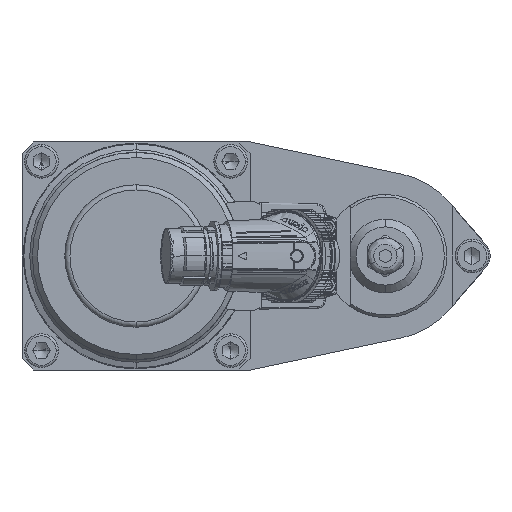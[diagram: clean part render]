
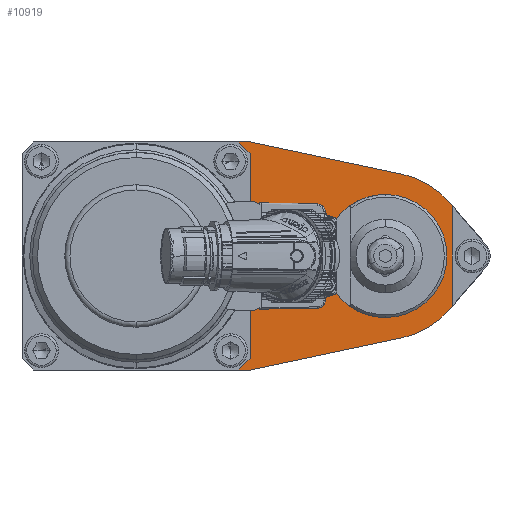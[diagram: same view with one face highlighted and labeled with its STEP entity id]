
A CAD part, left-side view. The second image highlights one B-rep face of the part: STEP entity #10919.
In plain terms, the highlighted planar face has unit normal (-1, 0, 0).
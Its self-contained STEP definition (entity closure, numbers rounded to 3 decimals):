
#102 = CARTESIAN_POINT ( 'NONE',  ( -132., 19., 14.25 ) ) ;
#512 = VERTEX_POINT ( 'NONE', #80574 ) ;
#2538 = VECTOR ( 'NONE', #33791, 1000. ) ;
#4799 = CARTESIAN_POINT ( 'NONE',  ( -132., 52.213, 44. ) ) ;
#4882 = CARTESIAN_POINT ( 'NONE',  ( -132., 19., -14.25 ) ) ;
#5156 = EDGE_CURVE ( 'NONE', #15463, #83904, #9963, .T. ) ;
#6144 = EDGE_CURVE ( 'NONE', #8678, #9292, #30589, .T. ) ;
#6688 = CARTESIAN_POINT ( 'NONE',  ( -132., 52.13, -44. ) ) ;
#6965 = VECTOR ( 'NONE', #64194, 1000. ) ;
#7342 = ORIENTED_EDGE ( 'NONE', *, *, #80531, .F. ) ;
#7470 = EDGE_CURVE ( 'NONE', #18658, #24157, #20547, .T. ) ;
#7785 = CARTESIAN_POINT ( 'NONE',  ( -132., 56.713, 44. ) ) ;
#8153 = CARTESIAN_POINT ( 'NONE',  ( -132., 56.713, -44. ) ) ;
#8678 = VERTEX_POINT ( 'NONE', #60181 ) ;
#9292 = VERTEX_POINT ( 'NONE', #32720 ) ;
#9963 = LINE ( 'NONE', #4799, #30800 ) ;
#10919 = ADVANCED_FACE ( 'NONE', ( #36610, #107213 ), #30795, .T. ) ;
#11905 = CIRCLE ( 'NONE', #84918, 23.75 ) ;
#12911 = CARTESIAN_POINT ( 'NONE',  ( -132., 49.911, 0. ) ) ;
#14364 = CARTESIAN_POINT ( 'NONE',  ( -132., 52.13, 44. ) ) ;
#15463 = VERTEX_POINT ( 'NONE', #39681 ) ;
#15836 = ORIENTED_EDGE ( 'NONE', *, *, #38913, .T. ) ;
#16692 = DIRECTION ( 'NONE',  ( 0., -0.707, -0.707 ) ) ;
#17708 = CARTESIAN_POINT ( 'NONE',  ( -132., 0., 0. ) ) ;
#18658 = VERTEX_POINT ( 'NONE', #107108 ) ;
#19110 = EDGE_CURVE ( 'NONE', #9292, #75299, #42077, .T. ) ;
#19450 = DIRECTION ( 'NONE',  ( -1., 0., 0. ) ) ;
#19622 = LINE ( 'NONE', #6688, #46015 ) ;
#20547 = LINE ( 'NONE', #104171, #2538 ) ;
#20758 = ORIENTED_EDGE ( 'NONE', *, *, #6144, .F. ) ;
#22012 = CARTESIAN_POINT ( 'NONE',  ( -132., 140.213, 44. ) ) ;
#23609 = ORIENTED_EDGE ( 'NONE', *, *, #103574, .F. ) ;
#23996 = DIRECTION ( 'NONE',  ( 0., 0.707, -0.707 ) ) ;
#24138 = DIRECTION ( 'NONE',  ( 0., 0.978, -0.208 ) ) ;
#24157 = VERTEX_POINT ( 'NONE', #8153 ) ;
#25485 = ORIENTED_EDGE ( 'NONE', *, *, #47294, .F. ) ;
#25959 = DIRECTION ( 'NONE',  ( 1., 0., 0. ) ) ;
#26595 = DIRECTION ( 'NONE',  ( 0., 0., 1. ) ) ;
#26890 = VERTEX_POINT ( 'NONE', #60128 ) ;
#26965 = ORIENTED_EDGE ( 'NONE', *, *, #53755, .F. ) ;
#26996 = DIRECTION ( 'NONE',  ( 0., 0.656, -0.755 ) ) ;
#27059 = CARTESIAN_POINT ( 'NONE',  ( -132., 0., 23.75 ) ) ;
#29320 = ORIENTED_EDGE ( 'NONE', *, *, #86392, .F. ) ;
#29329 = VERTEX_POINT ( 'NONE', #4882 ) ;
#30468 = VECTOR ( 'NONE', #60332, 1000. ) ;
#30589 = LINE ( 'NONE', #63496, #6965 ) ;
#30615 = EDGE_CURVE ( 'NONE', #29329, #512, #11905, .T. ) ;
#30795 = PLANE ( 'NONE',  #75113 ) ;
#30800 = VECTOR ( 'NONE', #66737, 1000. ) ;
#32186 = VERTEX_POINT ( 'NONE', #49587 ) ;
#32720 = CARTESIAN_POINT ( 'NONE',  ( -132., -25.89, 19.298 ) ) ;
#33229 = LINE ( 'NONE', #69274, #30468 ) ;
#33791 = DIRECTION ( 'NONE',  ( 0., 1., 0. ) ) ;
#36610 = FACE_OUTER_BOUND ( 'NONE', #59064, .T. ) ;
#37312 = ORIENTED_EDGE ( 'NONE', *, *, #61066, .F. ) ;
#37884 = ORIENTED_EDGE ( 'NONE', *, *, #67656, .F. ) ;
#38913 = EDGE_CURVE ( 'NONE', #26890, #15463, #55181, .T. ) ;
#39108 = LINE ( 'NONE', #22012, #41869 ) ;
#39457 = VERTEX_POINT ( 'NONE', #27059 ) ;
#39681 = CARTESIAN_POINT ( 'NONE',  ( -132., 52.213, 39.5 ) ) ;
#39724 = DIRECTION ( 'NONE',  ( 0., 0., 1. ) ) ;
#41869 = VECTOR ( 'NONE', #92827, 1000. ) ;
#42077 = LINE ( 'NONE', #113607, #65599 ) ;
#44578 = ORIENTED_EDGE ( 'NONE', *, *, #7470, .F. ) ;
#44926 = ORIENTED_EDGE ( 'NONE', *, *, #30615, .F. ) ;
#46015 = VECTOR ( 'NONE', #24138, 1000. ) ;
#47294 = EDGE_CURVE ( 'NONE', #75299, #103251, #71924, .T. ) ;
#48353 = VECTOR ( 'NONE', #26996, 1000. ) ;
#48797 = DIRECTION ( 'NONE',  ( -1., 0., 0. ) ) ;
#49180 = ORIENTED_EDGE ( 'NONE', *, *, #19110, .F. ) ;
#49428 = CIRCLE ( 'NONE', #70275, 23.75 ) ;
#49587 = CARTESIAN_POINT ( 'NONE',  ( -132., -6.695, 31.496 ) ) ;
#51102 = DIRECTION ( 'NONE',  ( 1., 0., 0. ) ) ;
#51247 = EDGE_LOOP ( 'NONE', ( #7342, #37884, #29320, #44926 ) ) ;
#52431 = VECTOR ( 'NONE', #23996, 1000. ) ;
#52684 = EDGE_CURVE ( 'NONE', #103251, #58793, #104360, .T. ) ;
#53755 = EDGE_CURVE ( 'NONE', #58793, #18658, #19622, .T. ) ;
#55181 = LINE ( 'NONE', #7785, #99480 ) ;
#57792 = AXIS2_PLACEMENT_3D ( 'NONE', #104080, #51102, #113026 ) ;
#58793 = VERTEX_POINT ( 'NONE', #72235 ) ;
#59064 = EDGE_LOOP ( 'NONE', ( #15836, #77916, #70024, #44578, #26965, #86733, #25485, #49180, #20758, #23609, #71479, #37312 ) ) ;
#60128 = CARTESIAN_POINT ( 'NONE',  ( -132., 56.713, 44. ) ) ;
#60181 = CARTESIAN_POINT ( 'NONE',  ( -132., -24.302, 21.125 ) ) ;
#60332 = DIRECTION ( 'NONE',  ( 0., -0.978, -0.208 ) ) ;
#61066 = EDGE_CURVE ( 'NONE', #26890, #88711, #39108, .T. ) ;
#62549 = CARTESIAN_POINT ( 'NONE',  ( -132., 52.213, -39.5 ) ) ;
#62727 = CIRCLE ( 'NONE', #57792, 32.2 ) ;
#63496 = CARTESIAN_POINT ( 'NONE',  ( -132., -24.302, 21.125 ) ) ;
#63926 = VERTEX_POINT ( 'NONE', #102 ) ;
#64194 = DIRECTION ( 'NONE',  ( 0., -0.656, -0.755 ) ) ;
#65599 = VECTOR ( 'NONE', #104677, 1000. ) ;
#66143 = VECTOR ( 'NONE', #112863, 1000. ) ;
#66737 = DIRECTION ( 'NONE',  ( 0., 0., -1. ) ) ;
#67656 = EDGE_CURVE ( 'NONE', #39457, #63926, #105741, .T. ) ;
#69274 = CARTESIAN_POINT ( 'NONE',  ( -132., 52.13, 44. ) ) ;
#70024 = ORIENTED_EDGE ( 'NONE', *, *, #106515, .T. ) ;
#70275 = AXIS2_PLACEMENT_3D ( 'NONE', #72515, #19450, #81396 ) ;
#71479 = ORIENTED_EDGE ( 'NONE', *, *, #84722, .F. ) ;
#71924 = LINE ( 'NONE', #97452, #48353 ) ;
#72235 = CARTESIAN_POINT ( 'NONE',  ( -132., -6.695, -31.496 ) ) ;
#72515 = CARTESIAN_POINT ( 'NONE',  ( -132., 0., 0. ) ) ;
#75113 = AXIS2_PLACEMENT_3D ( 'NONE', #12911, #92702, #39724 ) ;
#75299 = VERTEX_POINT ( 'NONE', #108570 ) ;
#75957 = LINE ( 'NONE', #77023, #52431 ) ;
#77023 = CARTESIAN_POINT ( 'NONE',  ( -132., 52.213, -39.5 ) ) ;
#77916 = ORIENTED_EDGE ( 'NONE', *, *, #5156, .T. ) ;
#78969 = CARTESIAN_POINT ( 'NONE',  ( -132., 0., 0. ) ) ;
#79615 = DIRECTION ( 'NONE',  ( -1., 0., 0. ) ) ;
#80531 = EDGE_CURVE ( 'NONE', #63926, #29329, #89702, .T. ) ;
#80574 = CARTESIAN_POINT ( 'NONE',  ( -132., 0., -23.75 ) ) ;
#81396 = DIRECTION ( 'NONE',  ( 0., 0., 1. ) ) ;
#83904 = VERTEX_POINT ( 'NONE', #62549 ) ;
#84722 = EDGE_CURVE ( 'NONE', #88711, #32186, #33229, .T. ) ;
#84918 = AXIS2_PLACEMENT_3D ( 'NONE', #101813, #48797, #110711 ) ;
#86392 = EDGE_CURVE ( 'NONE', #512, #39457, #49428, .T. ) ;
#86733 = ORIENTED_EDGE ( 'NONE', *, *, #52684, .F. ) ;
#87861 = DIRECTION ( 'NONE',  ( 0., 0., 1. ) ) ;
#88711 = VERTEX_POINT ( 'NONE', #14364 ) ;
#89702 = LINE ( 'NONE', #103927, #66143 ) ;
#92702 = DIRECTION ( 'NONE',  ( -1., 0., 0. ) ) ;
#92827 = DIRECTION ( 'NONE',  ( 0., -1., 0. ) ) ;
#93658 = CARTESIAN_POINT ( 'NONE',  ( -132., -24.302, -21.125 ) ) ;
#97452 = CARTESIAN_POINT ( 'NONE',  ( -132., -24.302, -21.125 ) ) ;
#99480 = VECTOR ( 'NONE', #16692, 1000. ) ;
#99718 = AXIS2_PLACEMENT_3D ( 'NONE', #17708, #79615, #26595 ) ;
#101813 = CARTESIAN_POINT ( 'NONE',  ( -132., 0., 0. ) ) ;
#103251 = VERTEX_POINT ( 'NONE', #93658 ) ;
#103574 = EDGE_CURVE ( 'NONE', #32186, #8678, #62727, .T. ) ;
#103927 = CARTESIAN_POINT ( 'NONE',  ( -132., 19., -14.25 ) ) ;
#104080 = CARTESIAN_POINT ( 'NONE',  ( -132., 0., 0. ) ) ;
#104171 = CARTESIAN_POINT ( 'NONE',  ( -132., 140.213, -44. ) ) ;
#104360 = CIRCLE ( 'NONE', #108257, 32.2 ) ;
#104677 = DIRECTION ( 'NONE',  ( 0., 0., -1. ) ) ;
#105741 = CIRCLE ( 'NONE', #99718, 23.75 ) ;
#106515 = EDGE_CURVE ( 'NONE', #83904, #24157, #75957, .T. ) ;
#107108 = CARTESIAN_POINT ( 'NONE',  ( -132., 52.13, -44. ) ) ;
#107213 = FACE_BOUND ( 'NONE', #51247, .T. ) ;
#108257 = AXIS2_PLACEMENT_3D ( 'NONE', #78969, #25959, #87861 ) ;
#108570 = CARTESIAN_POINT ( 'NONE',  ( -132., -25.89, -19.298 ) ) ;
#110711 = DIRECTION ( 'NONE',  ( 0., 0., 1. ) ) ;
#112863 = DIRECTION ( 'NONE',  ( 0., 0., -1. ) ) ;
#113026 = DIRECTION ( 'NONE',  ( 0., 0., 1. ) ) ;
#113607 = CARTESIAN_POINT ( 'NONE',  ( -132., -25.89, -19.298 ) ) ;
